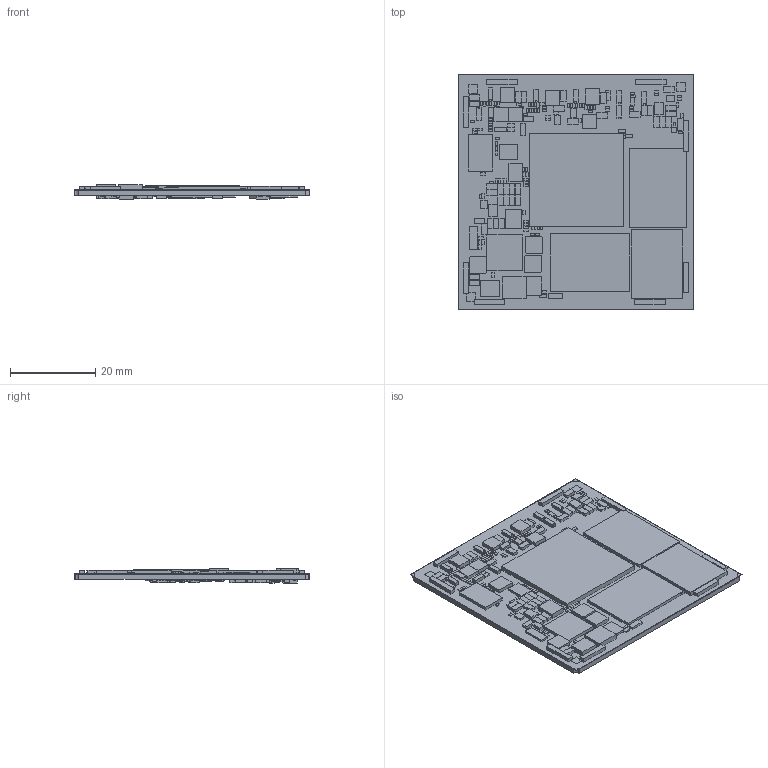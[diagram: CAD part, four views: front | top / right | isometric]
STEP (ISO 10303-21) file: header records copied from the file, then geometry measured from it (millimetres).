
FILE_DESCRIPTION(('FreeCAD Model'),'2;1');
FILE_NAME('/private/tmp/core/ROCK PI 4 CORE_V1.1_3D文件/ROCK PI 4 CORE_V2.0_200PIN_3D文件/rock pi 4 core_200pin.step', '2021-09-16T21:18:46',('Author'),(''), 'Open CASCADE STEP processor 7.3','FreeCAD','Unknown');
FILE_SCHEMA(('AUTOMOTIVE_DESIGN { 1 0 10303 214 1 1 1 1 }'));
Length unit declared in the file: millimetre
Products named in the file (457): R1; R10; R100; R101; R102; R103; R104; R105; R106; R107; Board_outline; C1; C10; C100; C101; C102; C103; C104; C105; C106; C107; C108; C109; C11; C110; C111; C112; C113; C114; C115; C116; C117; C118; C119; C12; C120; C121; C122; C123; C124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
Bounding box: 55.02 x 55.05 x 3.4 mm (x, y, z)
Volume: 6160.7 mm3; surface area: 24577.9 mm2
Topology: 457 solids, 457 shells, 2770 faces, 5568 edges, 3712 vertices
Faces by surface type: plane 2757, cylinder 13
Entity records: 151074 total; most frequent: CARTESIAN_POINT 23271, DIRECTION 22258, LINE 16652, VECTOR 16652, ORIENTED_EDGE 11136, PCURVE 11136, DEFINITIONAL_REPRESENTATION 11136, EDGE_CURVE 5568
